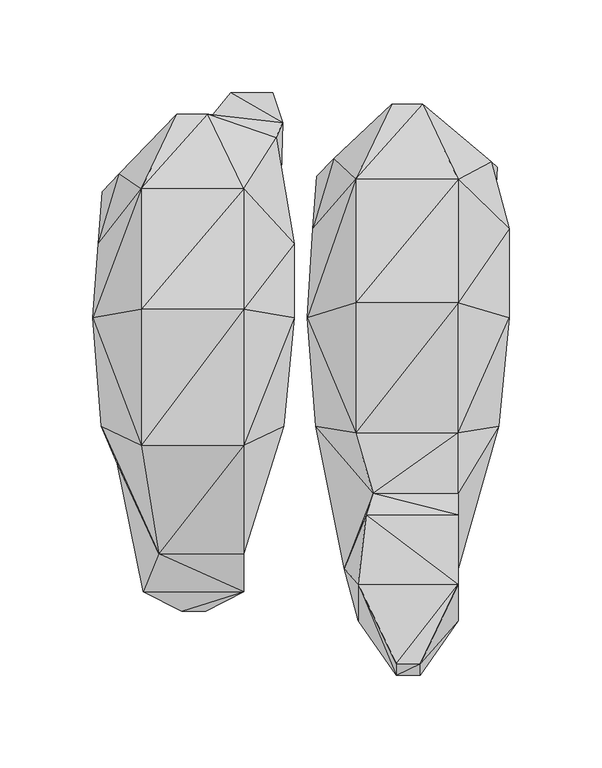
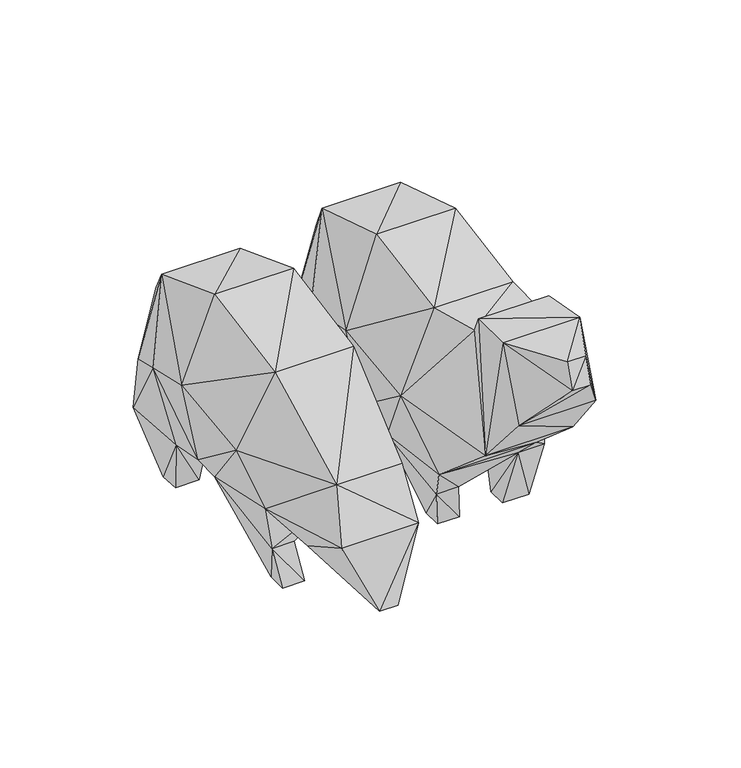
"""IFC4 building model written with IfcOpenShell, lengths in millimetres: geographic element geometry, Enscape AssetDefinition - Sculpture, Bears : Enscape AssetDefinition - Sculpture, Bears."""

from ifc_helpers import new_model, si_unit, origin, place, context, project, spatial, faceted_brep, source, transform, mapped, element, save


def geographic_element_decb433f(model_context):
    return source(origin(), model_context, "Body", "Brep", [
        faceted_brep([(-89.5315111, 9.9344449, 49.9903187), (-104.9570963, 9.934444, 49.9903187), (-106.0161963, 28.0342344, 52.1553159), (-101.0225862, -44.4370471, 57.6675683), (-96.4194387, -45.2817902, 26.9751642), (-109.6427739, -24.1681896, 91.8660089), (-92.6109403, -37.6513079, 0.0), (-114.2036617, 34.304332, 106.3084379), (-88.0867988, -34.4509669, 148.8129199), (-78.6067545, -93.1431502, 97.3363295), (-111.2218127, 74.2637217, 94.2053199), (-88.0868137, 103.9875448, 137.6006305), (-88.0868137, 39.0150882, 162.1341258), (-32.6836482, 39.0150882, 162.1341258), (-32.683637, -34.4509706, 148.8129199), (-32.6836444, 103.9875448, 137.6006305), (-5.4311324, 74.2637217, 94.2053199), (-5.4311324, 34.3430042, 106.3084379), (-11.0153276, -24.1681896, 91.8660015), (-32.6836407, -93.1431577, 97.3363295), (-13.5745406, 75.6339431, 47.0184423), (-18.367134, 28.0342307, 52.1553159), (-15.1417451, 131.4921081, 74.086301), (-52.0677753, 144.0070868, 97.0433876), (-11.641263, 139.4032836, 47.6977155), (-36.60319, 70.4277903, 47.0184423), (-18.4063446, 140.9319788, 0.5250851), (-17.1647817, 155.7416469, -0.2578296), (-52.8213084, 139.4032836, 42.3695408), (-39.5854861, 155.7416469, -0.2578296), (-68.702668, 144.0070868, 97.0433876), (-99.9321565, 111.8915007, 74.086301), (-75.3981248, 120.8615601, 69.1626519), (-109.0425104, 102.4323627, 46.9631478), (-80.729261, 111.4822254, 46.9631478), (-106.4574122, 54.6356477, 47.0184423), (-96.3051394, 87.6504779, -0.2578191), (-96.3051394, 72.8408024, 0.5250886), (-77.9281184, 61.0853434, 47.0184423), (-79.5391947, 72.8408024, 0.5250886), (-39.5866893, 9.9344449, 49.9903187), (-20.8011195, 9.9344449, 49.9903187), (-40.8270508, 140.9319788, 0.5250851), (-79.5391947, 87.6504779, -0.2578191), (-47.2077169, 8.2697328, 0.0), (-39.6674648, -18.3419529, 38.2594764), (-28.3413734, 8.2697328, 0.0), (-47.2077206, -5.4157129, 0.0), (-28.3413753, -5.4157129, 0.0), (-20.8011195, -18.3419529, 38.2594764), (-32.683637, -44.4370471, 57.6675683), (-80.8985606, -45.2817902, 26.9751642), (-77.0900622, -37.6513079, 0.0), (-77.0900622, -51.3367541, 0.0), (-92.6109403, -51.3367541, 0.0), (-86.8378356, -113.4210676, 65.2861074), (-86.8378356, -71.6434047, 41.7253673), (-32.6836444, -113.4210676, 65.2861148), (-66.2569404, -123.9350066, 17.3620041), (-32.6836407, -71.6433972, 41.7253673), (-53.2645434, -123.9350066, 17.3620041), (-66.2569404, -103.8005352, 16.4999347), (-53.2645397, -103.8005278, 16.499931)], [[[0, 1, 2]], [[3, 1, 4]], [[5, 2, 1]], [[1, 3, 5]], [[6, 4, 1]], [[0, 6, 1]], [[7, 2, 5]], [[7, 5, 8]], [[9, 8, 5]], [[9, 5, 3]], [[10, 7, 11]], [[7, 8, 12]], [[11, 7, 12]], [[10, 2, 7]], [[12, 8, 13]], [[13, 8, 14]], [[9, 14, 8]], [[11, 12, 15]], [[15, 12, 13]], [[15, 13, 16]], [[14, 17, 13]], [[16, 13, 17]], [[18, 17, 14]], [[9, 19, 14]], [[19, 18, 14]], [[20, 17, 21]], [[18, 21, 17]], [[17, 20, 16]], [[22, 16, 20]], [[22, 15, 16]], [[23, 15, 22]], [[11, 15, 23]], [[22, 24, 23]], [[22, 20, 24]], [[20, 21, 25]], [[26, 24, 20]], [[25, 26, 20]], [[27, 24, 26]], [[28, 24, 29]], [[23, 24, 28]], [[29, 24, 27]], [[23, 28, 30]], [[11, 23, 30]], [[31, 11, 30]], [[11, 31, 10]], [[32, 31, 30]], [[28, 32, 30]], [[33, 10, 31]], [[32, 34, 31]], [[31, 34, 33]], [[35, 2, 10]], [[10, 33, 35]], [[36, 35, 33]], [[34, 36, 33]], [[37, 35, 36]], [[38, 35, 39]], [[35, 21, 2]], [[38, 21, 35]], [[39, 35, 37]], [[0, 2, 40]], [[40, 2, 21]], [[18, 41, 21]], [[40, 21, 41]], [[25, 21, 38]], [[25, 38, 34]], [[39, 34, 38]], [[42, 26, 25]], [[25, 28, 42]], [[25, 34, 28]], [[43, 36, 34]], [[39, 43, 34]], [[32, 28, 34]], [[42, 28, 29]], [[29, 27, 42]], [[42, 27, 26]], [[39, 37, 43]], [[43, 37, 36]], [[40, 41, 44]], [[44, 45, 40]], [[45, 0, 40]], [[44, 46, 47]], [[44, 47, 45]], [[44, 41, 46]], [[46, 41, 48]], [[47, 46, 48]], [[18, 49, 41]], [[48, 41, 49]], [[47, 48, 45]], [[45, 48, 49]], [[49, 18, 50]], [[49, 50, 45]], [[51, 0, 45]], [[45, 50, 51]], [[52, 6, 0]], [[0, 51, 52]], [[51, 4, 53]], [[51, 50, 4]], [[52, 51, 53]], [[53, 54, 52]], [[52, 54, 6]], [[54, 4, 6]], [[53, 4, 54]], [[4, 50, 3]], [[55, 3, 56]], [[3, 55, 9]], [[50, 56, 3]], [[55, 57, 9]], [[56, 58, 55]], [[58, 57, 55]], [[9, 57, 19]], [[59, 50, 57]], [[58, 60, 57]], [[57, 50, 19]], [[60, 59, 57]], [[58, 56, 61]], [[61, 60, 58]], [[62, 59, 60]], [[61, 62, 60]], [[59, 56, 50]], [[62, 56, 59]], [[50, 18, 19]], [[62, 61, 56]]]),
        faceted_brep([(26.335571, 0.2487545, 46.8057059), (10.9099867, 0.2487537, 46.8057059), (9.8508922, 28.0342363, 52.1553159), (14.8444986, -56.3405454, 49.7457609), (19.447647, -45.2817902, 26.9751642), (6.2243096, -24.1681896, 91.8660089), (23.2561454, -25.9350706, 0.0), (23.2561454, -39.6205187, 0.0), (34.9685214, -45.2817902, 26.9751642), (38.7770198, -39.6205187, 0.0), (38.7770198, -25.9350706, 0.0), (76.199621, -45.9591933, 38.2594764), (76.2804002, 0.2487545, 46.8057059), (95.0659588, 0.2487545, 46.8057059), (68.6593652, -26.3792351, 0.0), (97.4999517, 28.0342326, 52.1553159), (87.5257179, -26.3792314, 0.0), (68.6593652, -40.0646813, 0.0), (87.525703, -40.0646813, 0.0), (95.0659588, -45.9591933, 38.2594764), (104.85176, -24.1681896, 91.8660015), (83.183445, -56.3405454, 49.7457609), (110.4359552, 34.3430042, 106.3084379), (83.183445, -27.8197397, 151.917249), (83.183445, -101.1601239, 88.5622948), (83.183445, -60.297668, 151.6785324), (21.5277392, -101.1601165, 88.5622948), (1.6634244, 34.304332, 106.3084379), (27.7802888, -27.8197322, 151.917249), (37.2603349, -60.297668, 151.6785324), (9.4096754, 62.8094077, 47.0184423), (4.6452796, 82.4374929, 94.2053199), (27.7802739, 109.0225279, 143.049404), (27.7802739, 42.3008725, 164.0547514), (6.8245772, 110.6061265, 46.9631478), (15.9349255, 120.0652719, 74.086301), (83.183445, 109.0225279, 143.049404), (47.1644141, 149.6254951, 98.7881497), (63.7993142, 149.6254951, 98.7881497), (83.1834301, 42.3008725, 164.0547514), (110.4359552, 82.4374855, 94.2053199), (100.7253379, 118.5312793, 74.086301), (63.2023513, 129.962489, 70.8801448), (40.4689573, 129.035309, 69.1626519), (45.7430109, 119.6559891, 42.2675088), (63.0457699, 115.627341, 42.3695408), (102.2925526, 83.8077068, 47.0184423), (104.2258292, 115.627341, 47.6977155), (79.2638883, 78.601554, 47.0184423), (97.4607319, 90.8576325, 0.5250851), (98.7022966, 105.6673229, -0.2578279), (76.2815922, 105.6673229, -0.2578279), (75.0400275, 90.8576474, 0.5250851), (37.9389711, 69.2590997, 47.0184423), (36.3278911, 91.6242674, 0.5250922), (19.5619445, 91.6242748, 0.5250922), (19.5619445, 106.4339504, -0.2578209), (36.3278911, 106.4339429, -0.2578209), (83.183445, -71.9524845, 168.535471), (33.3822034, -71.9524845, 168.535471), (83.183445, -129.248336, 125.4157722), (83.183445, -109.4003767, 174.9314368), (29.0292483, -129.2483211, 125.4157722), (29.0292557, -109.4003767, 174.9314368), (49.6101491, -152.5236368, 179.7421724), (62.6025349, -152.5236368, 179.7421724), (62.6025349, -158.6116105, 162.0933264), (49.6101417, -158.6115956, 162.0933414)], [[[0, 1, 2]], [[3, 1, 4]], [[5, 2, 1]], [[1, 3, 5]], [[6, 4, 1]], [[0, 6, 1]], [[7, 4, 6]], [[8, 4, 9]], [[8, 3, 4]], [[9, 4, 7]], [[10, 6, 0]], [[10, 7, 6]], [[9, 7, 10]], [[10, 8, 9]], [[0, 8, 10]], [[8, 0, 11]], [[11, 3, 8]], [[0, 2, 12]], [[11, 0, 12]], [[12, 13, 14]], [[12, 15, 13]], [[14, 11, 12]], [[12, 2, 15]], [[14, 16, 17]], [[14, 17, 11]], [[14, 13, 16]], [[16, 13, 18]], [[17, 16, 18]], [[17, 18, 11]], [[18, 13, 19]], [[11, 18, 19]], [[20, 13, 15]], [[20, 19, 13]], [[19, 20, 21]], [[19, 21, 11]], [[20, 22, 23]], [[21, 20, 24]], [[25, 20, 23]], [[24, 20, 25]], [[20, 15, 22]], [[24, 26, 21]], [[21, 26, 3]], [[3, 11, 21]], [[26, 5, 3]], [[27, 2, 5]], [[27, 5, 28]], [[29, 28, 5]], [[29, 5, 26]], [[30, 2, 31]], [[30, 15, 2]], [[31, 2, 27]], [[31, 27, 32]], [[27, 28, 33]], [[32, 27, 33]], [[34, 31, 35]], [[32, 35, 31]], [[31, 34, 30]], [[32, 33, 36]], [[35, 32, 37]], [[32, 36, 38]], [[32, 38, 37]], [[33, 28, 39]], [[36, 33, 39]], [[36, 39, 40]], [[38, 36, 41]], [[41, 36, 40]], [[42, 43, 38]], [[42, 38, 41]], [[38, 43, 37]], [[43, 35, 37]], [[43, 44, 35]], [[42, 45, 43]], [[43, 45, 44]], [[45, 42, 41]], [[41, 40, 46]], [[41, 47, 45]], [[41, 46, 47]], [[40, 22, 46]], [[40, 39, 22]], [[46, 15, 48]], [[46, 22, 15]], [[49, 47, 46]], [[48, 49, 46]], [[50, 47, 49]], [[45, 47, 51]], [[51, 47, 50]], [[52, 49, 48]], [[52, 50, 49]], [[51, 50, 52]], [[52, 45, 51]], [[48, 45, 52]], [[48, 44, 45]], [[48, 53, 44]], [[48, 15, 53]], [[53, 15, 30]], [[53, 30, 54]], [[54, 44, 53]], [[55, 30, 56]], [[56, 30, 34]], [[54, 30, 55]], [[54, 55, 57]], [[54, 57, 44]], [[57, 56, 44]], [[44, 56, 34]], [[35, 44, 34]], [[57, 55, 56]], [[23, 22, 39]], [[39, 28, 23]], [[29, 25, 23]], [[29, 23, 28]], [[24, 25, 58]], [[29, 58, 25]], [[59, 58, 29]], [[29, 26, 59]], [[24, 58, 60]], [[59, 61, 58]], [[60, 58, 61]], [[60, 62, 24]], [[24, 62, 26]], [[59, 26, 63]], [[63, 26, 62]], [[63, 61, 59]], [[64, 65, 61]], [[65, 60, 61]], [[64, 61, 63]], [[66, 60, 65]], [[66, 62, 60]], [[66, 67, 62]], [[67, 63, 62]], [[64, 63, 67]], [[67, 65, 64]], [[67, 66, 65]]]),
    ])


if __name__ == "__main__":
    model = new_model("IFC4")
    model_context = context("Model", 3, world=origin())
    ifc_project = project(units=[si_unit("LENGTHUNIT", "METRE", prefix="MILLI")], contexts=[model_context])
    site = spatial("IfcSite", under=ifc_project)
    building = spatial("IfcBuilding", under=site)
    placement = place(None, origin())
    geographic_element_shape = geographic_element_decb433f(model_context)
    element("IfcGeographicElement", 1, ObjectType="Enscape AssetDefinition - Sculpture, Bears : Enscape AssetDefinition - Sculpture, Bears", at=placement, inside=building, context=model_context, shape_type="MappedRepresentation", body=[
        mapped(geographic_element_shape, transform((0.0, 0.0, 0.0), x_axis=(1.0, 0.0, 0.0), y_axis=(0.0, 1.0, 0.0), z_axis=(0.0, 0.0, 1.0))),
    ])
    save(model, "model.ifc")
